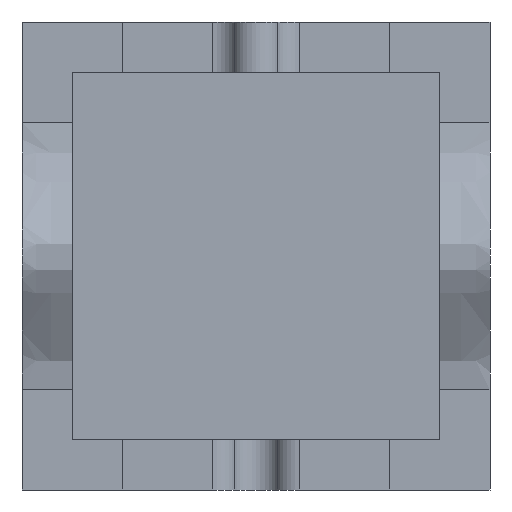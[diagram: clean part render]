
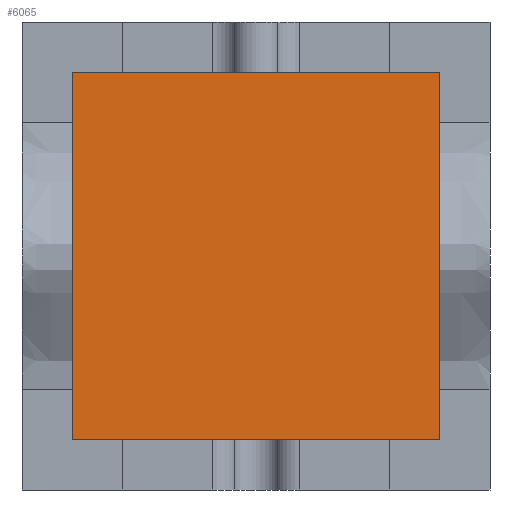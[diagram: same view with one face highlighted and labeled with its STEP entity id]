
A CAD part, front view. The second image highlights one B-rep face of the part: STEP entity #6065.
In plain terms, the highlighted planar face has unit normal (0, -1, 0).
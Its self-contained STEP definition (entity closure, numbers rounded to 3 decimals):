
#5939=CARTESIAN_POINT('Vertex',(-20.,-30.,-20.)) ;
#5944=CARTESIAN_POINT('Line Origine',(-20.,-30.,53.5)) ;
#5948=CARTESIAN_POINT('Vertex',(-20.,-30.,127.)) ;
#5975=CARTESIAN_POINT('Line Origine',(53.5,-30.,127.)) ;
#5979=CARTESIAN_POINT('Vertex',(127.,-30.,127.)) ;
#6006=CARTESIAN_POINT('Line Origine',(127.,-30.,53.5)) ;
#6010=CARTESIAN_POINT('Vertex',(127.,-30.,-20.)) ;
#6037=CARTESIAN_POINT('Line Origine',(53.5,-30.,-20.)) ;
#6054=CARTESIAN_POINT('Axis2P3D Location',(0.,-30.,0.)) ;
#5945=DIRECTION('Vector Direction',(0.,0.,-1.)) ;
#5976=DIRECTION('Vector Direction',(1.,0.,0.)) ;
#6007=DIRECTION('Vector Direction',(0.,0.,1.)) ;
#6038=DIRECTION('Vector Direction',(-1.,0.,0.)) ;
#6055=DIRECTION('Axis2P3D Direction',(0.,1.,0.)) ;
#6056=DIRECTION('Axis2P3D XDirection',(-1.,0.,0.)) ;
#6057=AXIS2_PLACEMENT_3D('Plane Axis2P3D',#6054,#6055,#6056) ;
#6060=ORIENTED_EDGE('',*,*,#6041,.F.) ;
#6061=ORIENTED_EDGE('',*,*,#6012,.F.) ;
#6062=ORIENTED_EDGE('',*,*,#5981,.F.) ;
#6063=ORIENTED_EDGE('',*,*,#5950,.F.) ;
#5946=VECTOR('Line Direction',#5945,1.) ;
#5977=VECTOR('Line Direction',#5976,1.) ;
#6008=VECTOR('Line Direction',#6007,1.) ;
#6039=VECTOR('Line Direction',#6038,1.) ;
#6065=ADVANCED_FACE('Cavity-molde',(#6064),#6058,.F.) ;
#5950=EDGE_CURVE('',#5940,#5949,#5947,.F.) ;
#5981=EDGE_CURVE('',#5949,#5980,#5978,.T.) ;
#6012=EDGE_CURVE('',#5980,#6011,#6009,.F.) ;
#6041=EDGE_CURVE('',#6011,#5940,#6040,.T.) ;
#6059=EDGE_LOOP('',(#6060,#6061,#6062,#6063)) ;
#6064=FACE_OUTER_BOUND('',#6059,.T.) ;
#5947=LINE('Line',#5944,#5946) ;
#5978=LINE('Line',#5975,#5977) ;
#6009=LINE('Line',#6006,#6008) ;
#6040=LINE('Line',#6037,#6039) ;
#6058=PLANE('',#6057) ;
#5940=VERTEX_POINT('',#5939) ;
#5949=VERTEX_POINT('',#5948) ;
#5980=VERTEX_POINT('',#5979) ;
#6011=VERTEX_POINT('',#6010) ;
